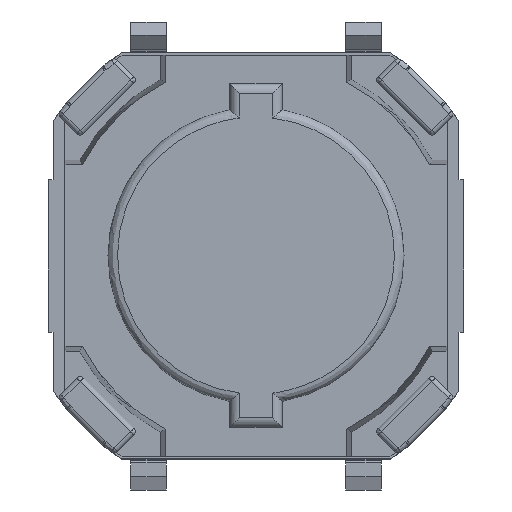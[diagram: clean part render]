
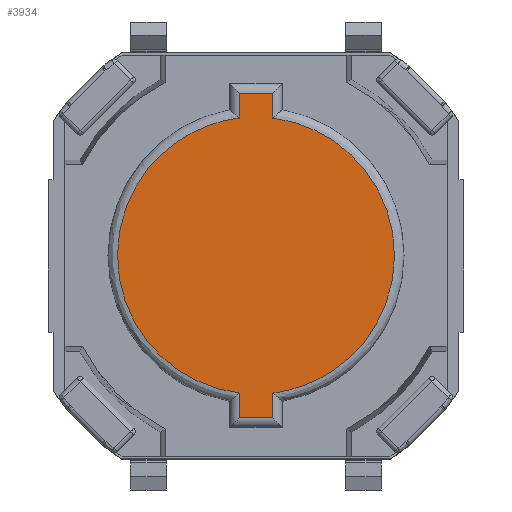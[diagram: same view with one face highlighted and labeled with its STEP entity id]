
A CAD part, top view. The second image highlights one B-rep face of the part: STEP entity #3934.
In plain terms, the highlighted planar face has unit normal (0, 0, 1).
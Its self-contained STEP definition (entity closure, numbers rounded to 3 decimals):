
#452 = VERTEX_POINT ( 'NONE', #3441 ) ;
#453 = VERTEX_POINT ( 'NONE', #3453 ) ;
#454 = VERTEX_POINT ( 'NONE', #3462 ) ;
#458 = VERTEX_POINT ( 'NONE', #3458 ) ;
#459 = VERTEX_POINT ( 'NONE', #3451 ) ;
#759 = VERTEX_POINT ( 'NONE', #5137 ) ;
#762 = VERTEX_POINT ( 'NONE', #5136 ) ;
#763 = VERTEX_POINT ( 'NONE', #5171 ) ;
#1108 = LINE ( 'NONE', #8694, #6573 ) ;
#1110 = LINE ( 'NONE', #8692, #6574 ) ;
#1161 = FACE_OUTER_BOUND ( 'NONE', #2313, .T. ) ;
#1572 = LINE ( 'NONE', #8748, #6553 ) ;
#1576 = LINE ( 'NONE', #8750, #6551 ) ;
#1871 = LINE ( 'NONE', #8690, #6575 ) ;
#2045 = LINE ( 'NONE', #8676, #6577 ) ;
#2313 = EDGE_LOOP ( 'NONE', ( #7642, #7648, #7647, #7614, #7635, #7636, #7637, #7638 ) ) ;
#3441 = CARTESIAN_POINT ( 'NONE',  ( -0.35, 2.879, 0. ) ) ;
#3451 = CARTESIAN_POINT ( 'NONE',  ( -0.35, -3.4, 0. ) ) ;
#3453 = CARTESIAN_POINT ( 'NONE',  ( 0.35, -2.879, 0. ) ) ;
#3458 = CARTESIAN_POINT ( 'NONE',  ( 0.35, -3.4, 0. ) ) ;
#3462 = CARTESIAN_POINT ( 'NONE',  ( 0.35, 2.879, 0. ) ) ;
#3934 = ADVANCED_FACE ( 'NONE', ( #1161 ), #8114, .T. ) ;
#4045 = EDGE_CURVE ( 'NONE', #454, #453, #4739, .T. ) ;
#4046 = EDGE_CURVE ( 'NONE', #454, #759, #2045, .T. ) ;
#4051 = EDGE_CURVE ( 'NONE', #763, #459, #1871, .T. ) ;
#4052 = EDGE_CURVE ( 'NONE', #459, #458, #1110, .T. ) ;
#4053 = EDGE_CURVE ( 'NONE', #458, #453, #1108, .T. ) ;
#4070 = EDGE_CURVE ( 'NONE', #759, #762, #1572, .T. ) ;
#4071 = EDGE_CURVE ( 'NONE', #762, #452, #1576, .T. ) ;
#4072 = EDGE_CURVE ( 'NONE', #763, #452, #6774, .T. ) ;
#4739 =( BOUNDED_CURVE ( )  B_SPLINE_CURVE ( 3, ( #8672, #8673, #8674, #8675 ),
 .UNSPECIFIED., .F., .T. ) 
 B_SPLINE_CURVE_WITH_KNOTS ( ( 4, 4 ),
 ( 0., 1. ),
 .UNSPECIFIED. ) 
 CURVE ( )  GEOMETRIC_REPRESENTATION_ITEM ( )  RATIONAL_B_SPLINE_CURVE ( ( 0.985, 0.407, 0.407, 0.985 ) ) 
 REPRESENTATION_ITEM ( '' )  );
#5136 = CARTESIAN_POINT ( 'NONE',  ( -0.35, 3.4, 0. ) ) ;
#5137 = CARTESIAN_POINT ( 'NONE',  ( 0.35, 3.4, 0. ) ) ;
#5171 = CARTESIAN_POINT ( 'NONE',  ( -0.35, -2.879, 0. ) ) ;
#6380 = AXIS2_PLACEMENT_3D ( 'NONE', #8115, #8116, #8117 ) ;
#6551 = VECTOR ( 'NONE', #8751, 1000. ) ;
#6553 = VECTOR ( 'NONE', #8749, 1000. ) ;
#6573 = VECTOR ( 'NONE', #8695, 1000. ) ;
#6574 = VECTOR ( 'NONE', #8693, 1000. ) ;
#6575 = VECTOR ( 'NONE', #8691, 1000. ) ;
#6577 = VECTOR ( 'NONE', #8677, 1000. ) ;
#6774 =( BOUNDED_CURVE ( )  B_SPLINE_CURVE ( 3, ( #8752, #8753, #8754, #8755 ),
 .UNSPECIFIED., .F., .T. ) 
 B_SPLINE_CURVE_WITH_KNOTS ( ( 4, 4 ),
 ( 0., 1. ),
 .UNSPECIFIED. ) 
 CURVE ( )  GEOMETRIC_REPRESENTATION_ITEM ( )  RATIONAL_B_SPLINE_CURVE ( ( 0.985, 0.407, 0.407, 0.985 ) ) 
 REPRESENTATION_ITEM ( '' )  );
#7614 = ORIENTED_EDGE ( 'NONE', *, *, #4071, .T. ) ;
#7635 = ORIENTED_EDGE ( 'NONE', *, *, #4072, .F. ) ;
#7636 = ORIENTED_EDGE ( 'NONE', *, *, #4051, .T. ) ;
#7637 = ORIENTED_EDGE ( 'NONE', *, *, #4052, .T. ) ;
#7638 = ORIENTED_EDGE ( 'NONE', *, *, #4053, .T. ) ;
#7642 = ORIENTED_EDGE ( 'NONE', *, *, #4045, .F. ) ;
#7647 = ORIENTED_EDGE ( 'NONE', *, *, #4070, .T. ) ;
#7648 = ORIENTED_EDGE ( 'NONE', *, *, #4046, .T. ) ;
#8114 = PLANE ( 'NONE',  #6380 ) ;
#8115 = CARTESIAN_POINT ( 'NONE',  ( 2.935, -3.4, 0. ) ) ;
#8116 = DIRECTION ( 'NONE',  ( 0., 0., 1. ) ) ;
#8117 = DIRECTION ( 'NONE',  ( 0., 1., 0. ) ) ;
#8672 = CARTESIAN_POINT ( 'NONE',  ( 0.35, 2.879, 0. ) ) ;
#8673 = CARTESIAN_POINT ( 'NONE',  ( 4.954, 2.319, 0. ) ) ;
#8674 = CARTESIAN_POINT ( 'NONE',  ( 4.954, -2.319, 0. ) ) ;
#8675 = CARTESIAN_POINT ( 'NONE',  ( 0.35, -2.879, 0. ) ) ;
#8676 = CARTESIAN_POINT ( 'NONE',  ( 0.35, 3.239, 0. ) ) ;
#8677 = DIRECTION ( 'NONE',  ( 0., 1., 0. ) ) ;
#8690 = CARTESIAN_POINT ( 'NONE',  ( -0.35, 0., 0. ) ) ;
#8691 = DIRECTION ( 'NONE',  ( 0., -1., 0. ) ) ;
#8692 = CARTESIAN_POINT ( 'NONE',  ( 0., -3.4, 0. ) ) ;
#8693 = DIRECTION ( 'NONE',  ( 1., 0., 0. ) ) ;
#8694 = CARTESIAN_POINT ( 'NONE',  ( 0.35, 0., 0. ) ) ;
#8695 = DIRECTION ( 'NONE',  ( 0., 1., 0. ) ) ;
#8748 = CARTESIAN_POINT ( 'NONE',  ( 0., 3.4, 0. ) ) ;
#8749 = DIRECTION ( 'NONE',  ( -1., 0., 0. ) ) ;
#8750 = CARTESIAN_POINT ( 'NONE',  ( -0.35, 3.239, 0. ) ) ;
#8751 = DIRECTION ( 'NONE',  ( 0., -1., 0. ) ) ;
#8752 = CARTESIAN_POINT ( 'NONE',  ( -0.35, -2.879, 0. ) ) ;
#8753 = CARTESIAN_POINT ( 'NONE',  ( -4.954, -2.319, 0. ) ) ;
#8754 = CARTESIAN_POINT ( 'NONE',  ( -4.954, 2.319, 0. ) ) ;
#8755 = CARTESIAN_POINT ( 'NONE',  ( -0.35, 2.879, 0. ) ) ;
